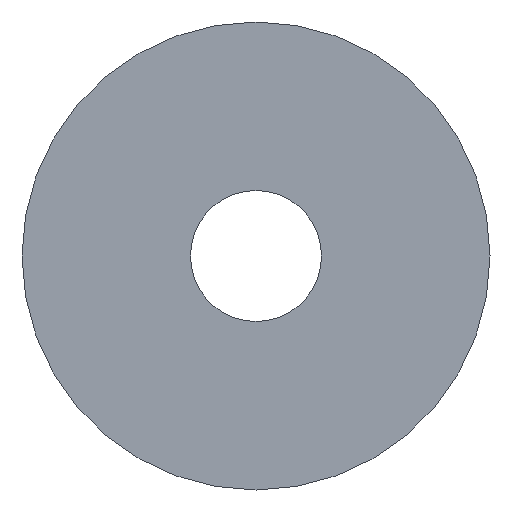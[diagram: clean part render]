
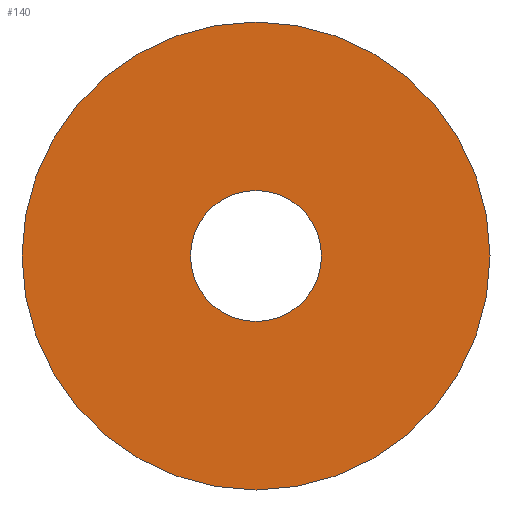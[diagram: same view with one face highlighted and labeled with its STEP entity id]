
A CAD part, front view. The second image highlights one B-rep face of the part: STEP entity #140.
In plain terms, the highlighted planar face has unit normal (0, -1, 0).
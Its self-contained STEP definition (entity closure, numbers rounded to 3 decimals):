
#31 = CYLINDRICAL_SURFACE('',#32,15.);
#32 = AXIS2_PLACEMENT_3D('',#33,#34,#35);
#33 = CARTESIAN_POINT('',(-130.,-146.913,-16.));
#34 = DIRECTION('',(0.,1.,0.));
#35 = DIRECTION('',(0.,-0.,1.));
#56 = VERTEX_POINT('',#57);
#57 = CARTESIAN_POINT('',(-130.,-146.913,-1.));
#78 = EDGE_CURVE('',#56,#56,#79,.T.);
#79 = SURFACE_CURVE('',#80,(#85,#92),.PCURVE_S1.);
#80 = CIRCLE('',#81,15.);
#81 = AXIS2_PLACEMENT_3D('',#82,#83,#84);
#82 = CARTESIAN_POINT('',(-130.,-146.913,-16.));
#83 = DIRECTION('',(0.,1.,0.));
#84 = DIRECTION('',(0.,-0.,1.));
#85 = PCURVE('',#31,#86);
#86 = DEFINITIONAL_REPRESENTATION('',(#87),#91);
#87 = LINE('',#88,#89);
#88 = CARTESIAN_POINT('',(0.,0.));
#89 = VECTOR('',#90,1.);
#90 = DIRECTION('',(1.,0.));
#91 = ( GEOMETRIC_REPRESENTATION_CONTEXT(2) 
PARAMETRIC_REPRESENTATION_CONTEXT() REPRESENTATION_CONTEXT('2D SPACE',''
  ) );
#92 = PCURVE('',#93,#98);
#93 = PLANE('',#94);
#94 = AXIS2_PLACEMENT_3D('',#95,#96,#97);
#95 = CARTESIAN_POINT('',(-130.,-146.913,-16.));
#96 = DIRECTION('',(0.,1.,0.));
#97 = DIRECTION('',(0.,-0.,1.));
#98 = DEFINITIONAL_REPRESENTATION('',(#99),#103);
#99 = CIRCLE('',#100,15.);
#100 = AXIS2_PLACEMENT_2D('',#101,#102);
#101 = CARTESIAN_POINT('',(0.,0.));
#102 = DIRECTION('',(1.,0.));
#103 = ( GEOMETRIC_REPRESENTATION_CONTEXT(2) 
PARAMETRIC_REPRESENTATION_CONTEXT() REPRESENTATION_CONTEXT('2D SPACE',''
  ) );
#129 = CYLINDRICAL_SURFACE('',#130,4.2);
#130 = AXIS2_PLACEMENT_3D('',#131,#132,#133);
#131 = CARTESIAN_POINT('',(-130.,-146.913,-16.));
#132 = DIRECTION('',(0.,1.,0.));
#133 = DIRECTION('',(0.,-0.,1.));
#140 = ADVANCED_FACE('',(#141,#144),#93,.F.);
#141 = FACE_BOUND('',#142,.F.);
#142 = EDGE_LOOP('',(#143));
#143 = ORIENTED_EDGE('',*,*,#78,.T.);
#144 = FACE_BOUND('',#145,.F.);
#145 = EDGE_LOOP('',(#146));
#146 = ORIENTED_EDGE('',*,*,#147,.F.);
#147 = EDGE_CURVE('',#148,#148,#150,.T.);
#148 = VERTEX_POINT('',#149);
#149 = CARTESIAN_POINT('',(-130.,-146.913,-11.8));
#150 = SURFACE_CURVE('',#151,(#156,#163),.PCURVE_S1.);
#151 = CIRCLE('',#152,4.2);
#152 = AXIS2_PLACEMENT_3D('',#153,#154,#155);
#153 = CARTESIAN_POINT('',(-130.,-146.913,-16.));
#154 = DIRECTION('',(0.,1.,0.));
#155 = DIRECTION('',(0.,-0.,1.));
#156 = PCURVE('',#93,#157);
#157 = DEFINITIONAL_REPRESENTATION('',(#158),#162);
#158 = CIRCLE('',#159,4.2);
#159 = AXIS2_PLACEMENT_2D('',#160,#161);
#160 = CARTESIAN_POINT('',(0.,0.));
#161 = DIRECTION('',(1.,0.));
#162 = ( GEOMETRIC_REPRESENTATION_CONTEXT(2) 
PARAMETRIC_REPRESENTATION_CONTEXT() REPRESENTATION_CONTEXT('2D SPACE',''
  ) );
#163 = PCURVE('',#129,#164);
#164 = DEFINITIONAL_REPRESENTATION('',(#165),#169);
#165 = LINE('',#166,#167);
#166 = CARTESIAN_POINT('',(0.,0.));
#167 = VECTOR('',#168,1.);
#168 = DIRECTION('',(1.,0.));
#169 = ( GEOMETRIC_REPRESENTATION_CONTEXT(2) 
PARAMETRIC_REPRESENTATION_CONTEXT() REPRESENTATION_CONTEXT('2D SPACE',''
  ) );
